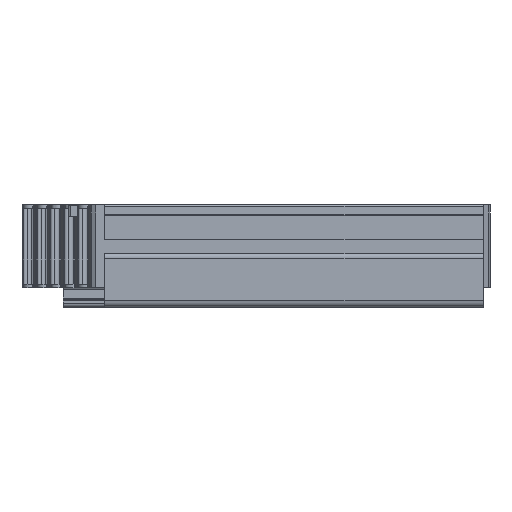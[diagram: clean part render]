
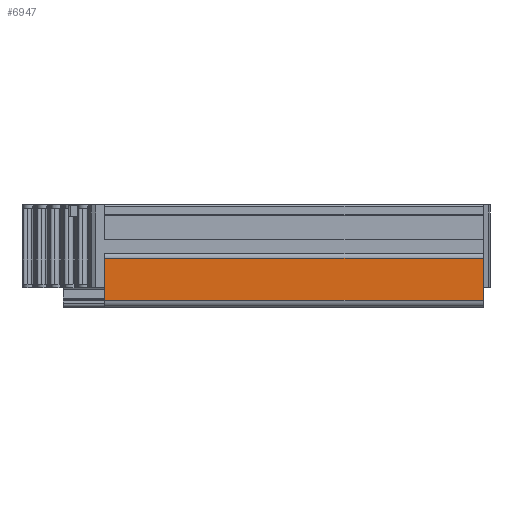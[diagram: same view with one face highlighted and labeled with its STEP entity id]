
A CAD part, left-side view. The second image highlights one B-rep face of the part: STEP entity #6947.
In plain terms, the highlighted planar face has unit normal (-1, 0, 0).
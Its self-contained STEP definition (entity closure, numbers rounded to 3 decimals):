
#116=PLANE('',#7396);
#428=LINE('',#9818,#955);
#603=LINE('',#10305,#1130);
#604=LINE('',#10307,#1131);
#605=LINE('',#10309,#1132);
#955=VECTOR('',#8118,1000.);
#1130=VECTOR('',#8633,1000.);
#1131=VECTOR('',#8634,1000.);
#1132=VECTOR('',#8635,1000.);
#2461=ORIENTED_EDGE('',*,*,#3235,.T.);
#2462=ORIENTED_EDGE('',*,*,#3478,.F.);
#2463=ORIENTED_EDGE('',*,*,#3479,.F.);
#2464=ORIENTED_EDGE('',*,*,#3480,.T.);
#3235=EDGE_CURVE('',#3913,#3912,#428,.T.);
#3478=EDGE_CURVE('',#4055,#3912,#603,.T.);
#3479=EDGE_CURVE('',#4056,#4055,#604,.T.);
#3480=EDGE_CURVE('',#4056,#3913,#605,.T.);
#3912=VERTEX_POINT('',#9817);
#3913=VERTEX_POINT('',#9819);
#4055=VERTEX_POINT('',#10306);
#4056=VERTEX_POINT('',#10308);
#4498=EDGE_LOOP('',(#2461,#2462,#2463,#2464));
#4777=FACE_BOUND('',#4498,.T.);
#6947=ADVANCED_FACE('',(#4777),#116,.F.);
#7396=AXIS2_PLACEMENT_3D('',#10304,#8631,#8632);
#8118=DIRECTION('',(0.,0.,1.));
#8631=DIRECTION('',(1.,0.,0.));
#8632=DIRECTION('',(0.,0.,-1.));
#8633=DIRECTION('',(0.,-1.,0.));
#8634=DIRECTION('',(0.,0.,1.));
#8635=DIRECTION('',(0.,-1.,0.));
#9817=CARTESIAN_POINT('',(-36.2,-6.4,4.3));
#9818=CARTESIAN_POINT('',(-36.2,-6.4,-1.8));
#9819=CARTESIAN_POINT('',(-36.2,-6.4,-1.8));
#10304=CARTESIAN_POINT('',(-36.2,48.4,-1.8));
#10305=CARTESIAN_POINT('',(-36.2,48.4,4.3));
#10306=CARTESIAN_POINT('',(-36.2,48.4,4.3));
#10307=CARTESIAN_POINT('',(-36.2,48.4,-1.8));
#10308=CARTESIAN_POINT('',(-36.2,48.4,-1.8));
#10309=CARTESIAN_POINT('',(-36.2,48.4,-1.8));
